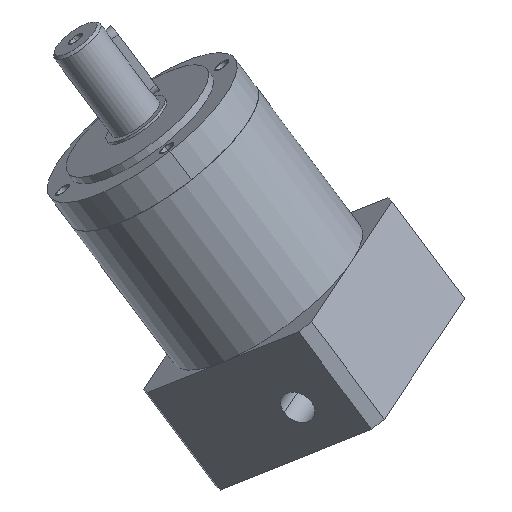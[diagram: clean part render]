
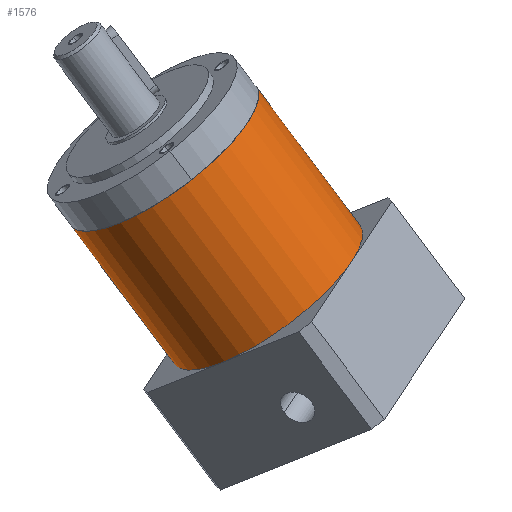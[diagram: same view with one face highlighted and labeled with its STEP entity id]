
A CAD part, top view. The second image highlights one B-rep face of the part: STEP entity #1576.
In plain terms, the highlighted cylindrical face has radius 40 mm (diameter 80 mm), a partial arc.
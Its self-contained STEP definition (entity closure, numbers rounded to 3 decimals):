
#1506=CARTESIAN_POINT('',(0.,0.,0.));
#1507=DIRECTION('',(0.,1.,0.));
#1508=DIRECTION('',(-1.,0.,0.));
#1509=AXIS2_PLACEMENT_3D('',#1506,#1507,#1508);
#1511=DIRECTION('',(0.,1.,0.));
#1512=VECTOR('',#1511,63.);
#1513=CARTESIAN_POINT('',(40.,0.,0.));
#1514=LINE('',#1513,#1512);
#1515=DIRECTION('',(0.,1.,0.));
#1516=VECTOR('',#1515,63.);
#1517=CARTESIAN_POINT('',(-40.,0.,0.));
#1518=LINE('',#1517,#1516);
#1524=CARTESIAN_POINT('',(0.,63.,0.));
#1525=DIRECTION('',(0.,1.,0.));
#1526=DIRECTION('',(-1.,0.,0.));
#1527=AXIS2_PLACEMENT_3D('',#1524,#1525,#1526);
#1529=CARTESIAN_POINT('',(40.,0.,0.));
#1530=CARTESIAN_POINT('',(-40.,0.,0.));
#1531=VERTEX_POINT('',#1529);
#1532=VERTEX_POINT('',#1530);
#1533=CARTESIAN_POINT('',(40.,63.,0.));
#1534=CARTESIAN_POINT('',(-40.,63.,0.));
#1535=VERTEX_POINT('',#1533);
#1536=VERTEX_POINT('',#1534);
#1564=CARTESIAN_POINT('',(0.,0.,0.));
#1565=DIRECTION('',(0.,1.,0.));
#1566=DIRECTION('',(1.,0.,0.));
#1567=AXIS2_PLACEMENT_3D('',#1564,#1565,#1566);
#1568=CYLINDRICAL_SURFACE('',#1567,40.);
#1569=ORIENTED_EDGE('',*,*,#1544,.F.);
#1570=ORIENTED_EDGE('',*,*,#1559,.T.);
#1572=ORIENTED_EDGE('',*,*,#1571,.T.);
#1573=ORIENTED_EDGE('',*,*,#1555,.F.);
#1574=EDGE_LOOP('',(#1569,#1570,#1572,#1573));
#1575=FACE_OUTER_BOUND('',#1574,.F.);
#1510=CIRCLE('',#1509,40.);
#1528=CIRCLE('',#1527,40.);
#1544=EDGE_CURVE('',#1532,#1531,#1510,.T.);
#1555=EDGE_CURVE('',#1531,#1535,#1514,.T.);
#1559=EDGE_CURVE('',#1532,#1536,#1518,.T.);
#1571=EDGE_CURVE('',#1536,#1535,#1528,.T.);
#1576=ADVANCED_FACE('',(#1575),#1568,.T.);
